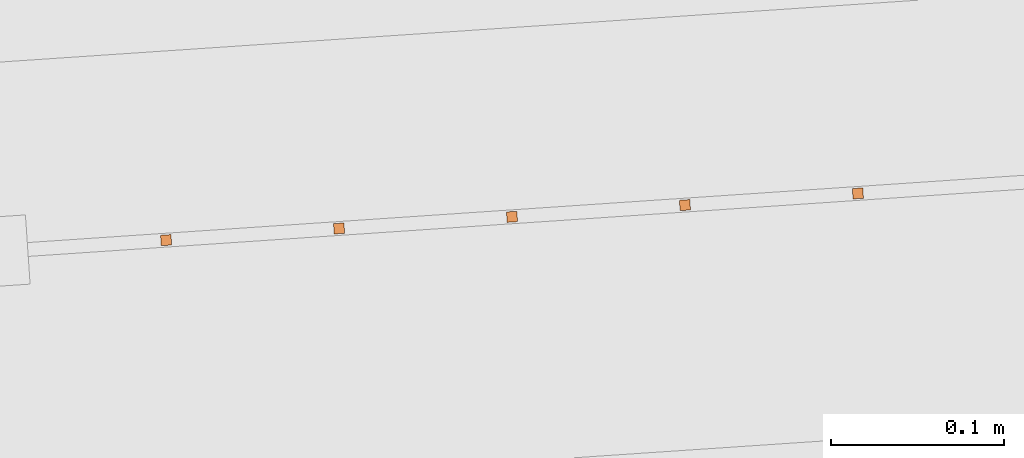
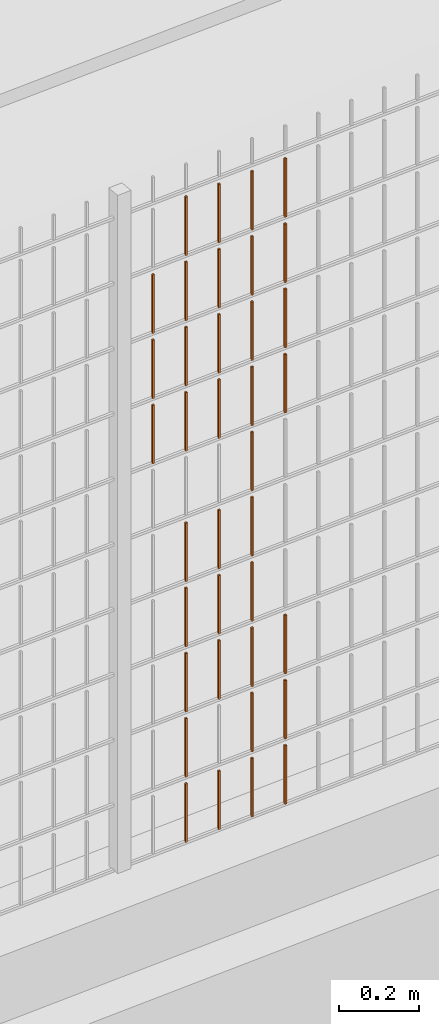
# One storey, part 269 of 1809: 37 proxies, 1 element without a shape of its own.
"""IFC2X3 building model written with IfcOpenShell, lengths in millimetres."""

from ifc_helpers import new_model, entity, si_unit, converted_unit, derived_unit, money_unit, direction, frame, origin_with_axes, place, context, subcontext, project, spatial, faceted_brep, source, transform, mapped, material, type_object, element, aggregate, save


model = new_model("IFC2X3")

# Units and contexts
model_context = context("Model", 3, precision=0.01, world=origin_with_axes(), true_north=direction((0.0, 1.0)))
body_context = subcontext(model_context, "Body", "Model", "MODEL_VIEW")
ifc_project = project(units=[si_unit("LENGTHUNIT", "METRE", prefix="MILLI"), si_unit("AREAUNIT", "SQUARE_METRE"), si_unit("VOLUMEUNIT", "CUBIC_METRE"), converted_unit("PLANEANGLEUNIT", "DEGREE", entity("IfcPlaneAngleMeasure", 0.0174532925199), si_unit("PLANEANGLEUNIT", "RADIAN"), dimensions=[0, 0, 0, 0, 0, 0, 0]), si_unit("SOLIDANGLEUNIT", "STERADIAN"), money_unit("EUR"), converted_unit("TIMEUNIT", "Year", entity("IfcTimeMeasure", 31556926.0), si_unit("TIMEUNIT", "SECOND"), dimensions=[0, 0, 1, 0, 0, 0, 0]), si_unit("MASSUNIT", "GRAM", prefix="KILO"), si_unit("THERMODYNAMICTEMPERATUREUNIT", "DEGREE_CELSIUS"), si_unit("LUMINOUSINTENSITYUNIT", "LUMEN"), si_unit("ENERGYUNIT", "JOULE", prefix="MEGA"), derived_unit("THERMALCONDUCTANCEUNIT", [(si_unit("POWERUNIT", "WATT"), 1), (si_unit("LENGTHUNIT", "METRE"), -1), (si_unit("THERMODYNAMICTEMPERATUREUNIT", "KELVIN"), -1)]), derived_unit("SPECIFICHEATCAPACITYUNIT", [(si_unit("ENERGYUNIT", "JOULE"), 1), (si_unit("MASSUNIT", "GRAM", prefix="KILO"), -1), (si_unit("THERMODYNAMICTEMPERATUREUNIT", "KELVIN"), -1)]), derived_unit("MASSDENSITYUNIT", [(si_unit("MASSUNIT", "GRAM", prefix="KILO"), 1), (si_unit("VOLUMEUNIT", "CUBIC_METRE"), -1)])], contexts=[model_context])

# Site, building, storey
site_placement = place(None, origin_with_axes())
site = spatial("IfcSite", under=ifc_project, at=site_placement, Name="Politse- ja Piirivalveameti ning Päästeameti ühishoone", CompositionType="ELEMENT")
building_placement = place(site_placement, origin_with_axes())
building = spatial("IfcBuilding", under=site, at=building_placement, Name="Politse- ja Piirivalveameti ning Päästeameti ühishoone", CompositionType="ELEMENT")
storey_placement = place(building_placement, origin_with_axes())
storey = spatial("IfcBuildingStorey", under=building, at=storey_placement, Name="Esimene korrus", CompositionType="ELEMENT", Elevation=0.0)

# Proxies
building_element_proxy_type_1 = type_object("IfcBuildingElementProxyType", Name="Railing Type", PredefinedType="NOTDEFINED")
proxy_1_placement = place(storey_placement, frame((89252.001212, -29183.4766571, 203.661247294), z_axis=(0.0, 0.0, 1.0), x_axis=(1.0, 0.0, 0.0)))
proxy_1 = element("IfcBuildingElementProxy", 1, at=proxy_1_placement, inside=storey, type_object=building_element_proxy_type_1, Name="PIIRDEAED")
ifc_material = material(Name="ET-03_Raud")
building_element_proxy_type_2 = type_object("IfcBuildingElementProxyType", Name="IfcBuildingElementProxy", PredefinedType="NOTDEFINED")
shared_shape_1 = source(origin_with_axes(), body_context, "Body", "Brep", [
    faceted_brep([(3.0, 3.0, -0.000752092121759), (-3.0, 3.0, -0.00075209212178), (-3.0, 3.0, 179.99926046), (3.0, 3.0, 179.99926046), (3.0, -3.0, 0.00075209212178), (-3.0, -3.0, 0.000752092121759), (-3.0, -3.0, 180.000764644), (3.0, -3.0, 180.000764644)], [[[0, 1, 2, 3]], [[0, 4, 5, 1]], [[1, 5, 6, 2]], [[3, 2, 6, 7]], [[4, 0, 3, 7]], [[5, 4, 7, 6]]]),
])
proxy_2_placement = place(proxy_1_placement, frame((-54203.1778868, -20958.9948724, 13.6148275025), z_axis=(0.0, 0.0, 1.0), x_axis=(1.0, 0.0, 0.0)))
proxy_2 = element("IfcBuildingElementProxy", 2, at=proxy_2_placement, type_object=building_element_proxy_type_2, material=ifc_material, Name="BALUSTER - 001", context=body_context, shape_type="MappedRepresentation", body=[
    mapped(shared_shape_1, transform((0.0, 0.0, 0.0), x_axis=(-0.0673926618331, 0.997726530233, 0.0), y_axis=(-0.997726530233, -0.0673926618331, 0.0), z_axis=(0.0, 0.0, 1.0))),
])
shared_shape_2 = source(origin_with_axes(), body_context, "Body", "Brep", [
    faceted_brep([(3.0, 3.0, -0.000752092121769), (-3.0, 3.0, -0.00075209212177), (-3.0, 3.0, 179.99926046), (3.0, 3.0, 179.99926046), (3.0, -3.0, 0.00075209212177), (-3.0, -3.0, 0.000752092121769), (-3.0, -3.0, 180.000764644), (3.0, -3.0, 180.000764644)], [[[0, 1, 2, 3]], [[0, 4, 5, 1]], [[1, 5, 6, 2]], [[3, 2, 6, 7]], [[4, 0, 3, 7]], [[5, 4, 7, 6]]]),
])
proxy_3_placement = place(proxy_1_placement, frame((-54302.9505399, -20965.7341386, 13.5897577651), z_axis=(0.0, 0.0, 1.0), x_axis=(1.0, 0.0, 0.0)))
proxy_3 = element("IfcBuildingElementProxy", 3, at=proxy_3_placement, type_object=building_element_proxy_type_2, material=ifc_material, Name="BALUSTER - 001", context=body_context, shape_type="MappedRepresentation", body=[
    mapped(shared_shape_2, transform((0.0, 0.0, 0.0), x_axis=(-0.0673926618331, 0.997726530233, 0.0), y_axis=(-0.997726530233, -0.0673926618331, 0.0), z_axis=(0.0, 0.0, 1.0))),
])
shared_shape_3 = source(origin_with_axes(), body_context, "Body", "Brep", [
    faceted_brep([(3.0, 3.0, -0.000752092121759), (-3.0, 3.0, -0.00075209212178), (-3.0, 3.0, 179.99926046), (3.0, 3.0, 179.99926046), (3.0, -3.0, 0.00075209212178), (-3.0, -3.0, 0.000752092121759), (-3.0, -3.0, 180.000764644), (3.0, -3.0, 180.000764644)], [[[0, 1, 2, 3]], [[0, 4, 5, 1]], [[1, 5, 6, 2]], [[3, 2, 6, 7]], [[4, 0, 3, 7]], [[5, 4, 7, 6]]]),
])
proxy_4_placement = place(proxy_1_placement, frame((-54402.7231929, -20972.4734048, 13.5646880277), z_axis=(0.0, 0.0, 1.0), x_axis=(1.0, 0.0, 0.0)))
proxy_4 = element("IfcBuildingElementProxy", 4, at=proxy_4_placement, type_object=building_element_proxy_type_2, material=ifc_material, Name="BALUSTER - 001", context=body_context, shape_type="MappedRepresentation", body=[
    mapped(shared_shape_3, transform((0.0, 0.0, 0.0), x_axis=(-0.0673926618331, 0.997726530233, 0.0), y_axis=(-0.997726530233, -0.0673926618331, 0.0), z_axis=(0.0, 0.0, 1.0))),
])
proxy_5_placement = place(proxy_1_placement, frame((-54502.4958459, -20979.212671, 13.5396182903), z_axis=(0.0, 0.0, 1.0), x_axis=(1.0, 0.0, 0.0)))
proxy_5 = element("IfcBuildingElementProxy", 5, at=proxy_5_placement, type_object=building_element_proxy_type_2, material=ifc_material, Name="BALUSTER - 001", context=body_context, shape_type="MappedRepresentation", body=[
    mapped(shared_shape_3, transform((0.0, 0.0, 0.0), x_axis=(-0.0673926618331, 0.997726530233, 0.0), y_axis=(-0.997726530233, -0.0673926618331, 0.0), z_axis=(0.0, 0.0, 1.0))),
])
proxy_6_placement = place(proxy_1_placement, frame((-54502.4958459, -20979.212671, 213.53961829), z_axis=(0.0, 0.0, 1.0), x_axis=(1.0, 0.0, 0.0)))
proxy_6 = element("IfcBuildingElementProxy", 6, at=proxy_6_placement, type_object=building_element_proxy_type_2, material=ifc_material, Name="BALUSTER - 001", context=body_context, shape_type="MappedRepresentation", body=[
    mapped(shared_shape_3, transform((0.0, 0.0, 0.0), x_axis=(-0.0673926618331, 0.997726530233, 0.0), y_axis=(-0.997726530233, -0.0673926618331, 0.0), z_axis=(0.0, 0.0, 1.0))),
])
shared_shape_4 = source(origin_with_axes(), body_context, "Body", "Brep", [
    faceted_brep([(3.0, 3.0, -0.000752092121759), (-3.0, 3.0, -0.00075209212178), (-3.0, 3.0, 179.99926046), (3.0, 3.0, 179.99926046), (3.0, -3.0, 0.00075209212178), (-3.0, -3.0, 0.000752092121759), (-3.0, -3.0, 180.000764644), (3.0, -3.0, 180.000764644)], [[[0, 1, 2, 3]], [[0, 4, 5, 1]], [[1, 5, 6, 2]], [[3, 2, 6, 7]], [[4, 0, 3, 7]], [[5, 4, 7, 6]]]),
])
proxy_7_placement = place(proxy_1_placement, frame((-54502.4958459, -20979.212671, 413.53961829), z_axis=(0.0, 0.0, 1.0), x_axis=(1.0, 0.0, 0.0)))
proxy_7 = element("IfcBuildingElementProxy", 7, at=proxy_7_placement, type_object=building_element_proxy_type_2, material=ifc_material, Name="BALUSTER - 001", context=body_context, shape_type="MappedRepresentation", body=[
    mapped(shared_shape_4, transform((0.0, 0.0, 0.0), x_axis=(-0.0673926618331, 0.997726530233, 0.0), y_axis=(-0.997726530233, -0.0673926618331, 0.0), z_axis=(0.0, 0.0, 1.0))),
])
proxy_8_placement = place(proxy_1_placement, frame((-54402.7231929, -20972.4734048, 613.564688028), z_axis=(0.0, 0.0, 1.0), x_axis=(1.0, 0.0, 0.0)))
proxy_8 = element("IfcBuildingElementProxy", 8, at=proxy_8_placement, type_object=building_element_proxy_type_2, material=ifc_material, Name="BALUSTER - 001", context=body_context, shape_type="MappedRepresentation", body=[
    mapped(shared_shape_4, transform((0.0, 0.0, 0.0), x_axis=(-0.0673926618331, 0.997726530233, 0.0), y_axis=(-0.997726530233, -0.0673926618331, 0.0), z_axis=(0.0, 0.0, 1.0))),
])
shared_shape_5 = source(origin_with_axes(), body_context, "Body", "Brep", [
    faceted_brep([(3.0, 3.0, -0.000752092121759), (-3.0, 3.0, -0.00075209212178), (-3.0, 3.0, 179.99926046), (3.0, 3.0, 179.99926046), (3.0, -3.0, 0.00075209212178), (-3.0, -3.0, 0.000752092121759), (-3.0, -3.0, 180.000764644), (3.0, -3.0, 180.000764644)], [[[0, 1, 2, 3]], [[0, 4, 5, 1]], [[1, 5, 6, 2]], [[3, 2, 6, 7]], [[4, 0, 3, 7]], [[5, 4, 7, 6]]]),
])
proxy_9_placement = place(proxy_1_placement, frame((-54203.1778868, -20958.9948724, 213.614827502), z_axis=(0.0, 0.0, 1.0), x_axis=(1.0, 0.0, 0.0)))
proxy_9 = element("IfcBuildingElementProxy", 9, at=proxy_9_placement, type_object=building_element_proxy_type_2, material=ifc_material, Name="BALUSTER - 001", context=body_context, shape_type="MappedRepresentation", body=[
    mapped(shared_shape_5, transform((0.0, 0.0, 0.0), x_axis=(-0.0673926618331, 0.997726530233, 0.0), y_axis=(-0.997726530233, -0.0673926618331, 0.0), z_axis=(0.0, 0.0, 1.0))),
])
proxy_10_placement = place(proxy_1_placement, frame((-54203.1778868, -20958.9948724, 413.614827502), z_axis=(0.0, 0.0, 1.0), x_axis=(1.0, 0.0, 0.0)))
proxy_10 = element("IfcBuildingElementProxy", 10, at=proxy_10_placement, type_object=building_element_proxy_type_2, material=ifc_material, Name="BALUSTER - 001", context=body_context, shape_type="MappedRepresentation", body=[
    mapped(shared_shape_5, transform((0.0, 0.0, 0.0), x_axis=(-0.0673926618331, 0.997726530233, 0.0), y_axis=(-0.997726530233, -0.0673926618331, 0.0), z_axis=(0.0, 0.0, 1.0))),
])
shared_shape_6 = source(origin_with_axes(), body_context, "Body", "Brep", [
    faceted_brep([(3.0, 3.0, -0.000752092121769), (-3.0, 3.0, -0.00075209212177), (-3.0, 3.0, 179.99926046), (3.0, 3.0, 179.99926046), (3.0, -3.0, 0.00075209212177), (-3.0, -3.0, 0.000752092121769), (-3.0, -3.0, 180.000764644), (3.0, -3.0, 180.000764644)], [[[0, 1, 2, 3]], [[0, 4, 5, 1]], [[1, 5, 6, 2]], [[3, 2, 6, 7]], [[4, 0, 3, 7]], [[5, 4, 7, 6]]]),
])
proxy_11_placement = place(proxy_1_placement, frame((-54302.9505399, -20965.7341386, 213.589757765), z_axis=(0.0, 0.0, 1.0), x_axis=(1.0, 0.0, 0.0)))
proxy_11 = element("IfcBuildingElementProxy", 11, at=proxy_11_placement, type_object=building_element_proxy_type_2, material=ifc_material, Name="BALUSTER - 001", context=body_context, shape_type="MappedRepresentation", body=[
    mapped(shared_shape_6, transform((0.0, 0.0, 0.0), x_axis=(-0.0673926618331, 0.997726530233, 0.0), y_axis=(-0.997726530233, -0.0673926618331, 0.0), z_axis=(0.0, 0.0, 1.0))),
])
shared_shape_7 = source(origin_with_axes(), body_context, "Body", "Brep", [
    faceted_brep([(3.0, 3.0, -0.000752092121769), (-3.0, 3.0, -0.00075209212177), (-3.0, 3.0, 179.99926046), (3.0, 3.0, 179.99926046), (3.0, -3.0, 0.00075209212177), (-3.0, -3.0, 0.000752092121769), (-3.0, -3.0, 180.000764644), (3.0, -3.0, 180.000764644)], [[[0, 1, 2, 3]], [[0, 4, 5, 1]], [[1, 5, 6, 2]], [[3, 2, 6, 7]], [[4, 0, 3, 7]], [[5, 4, 7, 6]]]),
])
proxy_12_placement = place(proxy_1_placement, frame((-54302.9505399, -20965.7341386, 413.589757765), z_axis=(0.0, 0.0, 1.0), x_axis=(1.0, 0.0, 0.0)))
proxy_12 = element("IfcBuildingElementProxy", 12, at=proxy_12_placement, type_object=building_element_proxy_type_2, material=ifc_material, Name="BALUSTER - 001", context=body_context, shape_type="MappedRepresentation", body=[
    mapped(shared_shape_7, transform((0.0, 0.0, 0.0), x_axis=(-0.0673926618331, 0.997726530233, 0.0), y_axis=(-0.997726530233, -0.0673926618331, 0.0), z_axis=(0.0, 0.0, 1.0))),
])
proxy_13_placement = place(proxy_1_placement, frame((-54302.9505399, -20965.7341386, 613.589757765), z_axis=(0.0, 0.0, 1.0), x_axis=(1.0, 0.0, 0.0)))
proxy_13 = element("IfcBuildingElementProxy", 13, at=proxy_13_placement, type_object=building_element_proxy_type_2, material=ifc_material, Name="BALUSTER - 001", context=body_context, shape_type="MappedRepresentation", body=[
    mapped(shared_shape_7, transform((0.0, 0.0, 0.0), x_axis=(-0.0673926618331, 0.997726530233, 0.0), y_axis=(-0.997726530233, -0.0673926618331, 0.0), z_axis=(0.0, 0.0, 1.0))),
])
shared_shape_8 = source(origin_with_axes(), body_context, "Body", "Brep", [
    faceted_brep([(3.0, 3.0, -0.000752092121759), (-3.0, 3.0, -0.00075209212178), (-3.0, 3.0, 179.99926046), (3.0, 3.0, 179.99926046), (3.0, -3.0, 0.00075209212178), (-3.0, -3.0, 0.000752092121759), (-3.0, -3.0, 180.000764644), (3.0, -3.0, 180.000764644)], [[[0, 1, 2, 3]], [[0, 4, 5, 1]], [[1, 5, 6, 2]], [[3, 2, 6, 7]], [[4, 0, 3, 7]], [[5, 4, 7, 6]]]),
])
proxy_14_placement = place(proxy_1_placement, frame((-54402.7231929, -20972.4734048, 413.564688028), z_axis=(0.0, 0.0, 1.0), x_axis=(1.0, 0.0, 0.0)))
proxy_14 = element("IfcBuildingElementProxy", 14, at=proxy_14_placement, type_object=building_element_proxy_type_2, material=ifc_material, Name="BALUSTER - 001", context=body_context, shape_type="MappedRepresentation", body=[
    mapped(shared_shape_8, transform((0.0, 0.0, 0.0), x_axis=(-0.0673926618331, 0.997726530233, 0.0), y_axis=(-0.997726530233, -0.0673926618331, 0.0), z_axis=(0.0, 0.0, 1.0))),
])
proxy_15_placement = place(proxy_1_placement, frame((-54502.4958459, -20979.212671, 613.53961829), z_axis=(0.0, 0.0, 1.0), x_axis=(1.0, 0.0, 0.0)))
proxy_15 = element("IfcBuildingElementProxy", 15, at=proxy_15_placement, type_object=building_element_proxy_type_2, material=ifc_material, Name="BALUSTER - 001", context=body_context, shape_type="MappedRepresentation", body=[
    mapped(shared_shape_8, transform((0.0, 0.0, 0.0), x_axis=(-0.0673926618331, 0.997726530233, 0.0), y_axis=(-0.997726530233, -0.0673926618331, 0.0), z_axis=(0.0, 0.0, 1.0))),
])
shared_shape_9 = source(origin_with_axes(), body_context, "Body", "Brep", [
    faceted_brep([(3.0, 3.0, -0.000752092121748), (-3.0, 3.0, -0.00075209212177), (-3.0, 3.0, 179.99926046), (3.0, 3.0, 179.99926046), (3.0, -3.0, 0.00075209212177), (-3.0, -3.0, 0.000752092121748), (-3.0, -3.0, 180.000764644), (3.0, -3.0, 180.000764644)], [[[0, 1, 2, 3]], [[0, 4, 5, 1]], [[1, 5, 6, 2]], [[3, 2, 6, 7]], [[4, 0, 3, 7]], [[5, 4, 7, 6]]]),
])
proxy_16_placement = place(proxy_1_placement, frame((-54502.4958459, -20979.212671, 1213.53961829), z_axis=(0.0, 0.0, 1.0), x_axis=(1.0, 0.0, 0.0)))
proxy_16 = element("IfcBuildingElementProxy", 16, at=proxy_16_placement, type_object=building_element_proxy_type_2, material=ifc_material, Name="BALUSTER - 001", context=body_context, shape_type="MappedRepresentation", body=[
    mapped(shared_shape_9, transform((0.0, 0.0, 0.0), x_axis=(-0.0673926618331, 0.997726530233, 0.0), y_axis=(-0.997726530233, -0.0673926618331, 0.0), z_axis=(0.0, 0.0, 1.0))),
])
proxy_17_placement = place(proxy_1_placement, frame((-54402.7231929, -20972.4734048, 1813.56468803), z_axis=(0.0, 0.0, 1.0), x_axis=(1.0, 0.0, 0.0)))
proxy_17 = element("IfcBuildingElementProxy", 17, at=proxy_17_placement, type_object=building_element_proxy_type_2, material=ifc_material, Name="BALUSTER - 001", context=body_context, shape_type="MappedRepresentation", body=[
    mapped(shared_shape_9, transform((0.0, 0.0, 0.0), x_axis=(-0.0673926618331, 0.997726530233, 0.0), y_axis=(-0.997726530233, -0.0673926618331, 0.0), z_axis=(0.0, 0.0, 1.0))),
])
shared_shape_10 = source(origin_with_axes(), body_context, "Body", "Brep", [
    faceted_brep([(3.0, 3.0, -0.000752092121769), (-3.0, 3.0, -0.00075209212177), (-3.0, 3.0, 179.99926046), (3.0, 3.0, 179.99926046), (3.0, -3.0, 0.00075209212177), (-3.0, -3.0, 0.000752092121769), (-3.0, -3.0, 180.000764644), (3.0, -3.0, 180.000764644)], [[[0, 1, 2, 3]], [[0, 4, 5, 1]], [[1, 5, 6, 2]], [[3, 2, 6, 7]], [[4, 0, 3, 7]], [[5, 4, 7, 6]]]),
])
proxy_18_placement = place(proxy_1_placement, frame((-54302.9505399, -20965.7341386, 813.589757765), z_axis=(0.0, 0.0, 1.0), x_axis=(1.0, 0.0, 0.0)))
proxy_18 = element("IfcBuildingElementProxy", 18, at=proxy_18_placement, type_object=building_element_proxy_type_2, material=ifc_material, Name="BALUSTER - 001", context=body_context, shape_type="MappedRepresentation", body=[
    mapped(shared_shape_10, transform((0.0, 0.0, 0.0), x_axis=(-0.0673926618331, 0.997726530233, 0.0), y_axis=(-0.997726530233, -0.0673926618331, 0.0), z_axis=(0.0, 0.0, 1.0))),
])
proxy_19_placement = place(proxy_1_placement, frame((-54302.9505399, -20965.7341386, 1213.58975777), z_axis=(0.0, 0.0, 1.0), x_axis=(1.0, 0.0, 0.0)))
proxy_19 = element("IfcBuildingElementProxy", 19, at=proxy_19_placement, type_object=building_element_proxy_type_2, material=ifc_material, Name="BALUSTER - 001", context=body_context, shape_type="MappedRepresentation", body=[
    mapped(shared_shape_10, transform((0.0, 0.0, 0.0), x_axis=(-0.0673926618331, 0.997726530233, 0.0), y_axis=(-0.997726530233, -0.0673926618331, 0.0), z_axis=(0.0, 0.0, 1.0))),
])
shared_shape_11 = source(origin_with_axes(), body_context, "Body", "Brep", [
    faceted_brep([(3.0, 3.0, -0.000752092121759), (-3.0, 3.0, -0.00075209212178), (-3.0, 3.0, 179.99926046), (3.0, 3.0, 179.99926046), (3.0, -3.0, 0.00075209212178), (-3.0, -3.0, 0.000752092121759), (-3.0, -3.0, 180.000764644), (3.0, -3.0, 180.000764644)], [[[0, 1, 2, 3]], [[0, 4, 5, 1]], [[1, 5, 6, 2]], [[3, 2, 6, 7]], [[4, 0, 3, 7]], [[5, 4, 7, 6]]]),
])
proxy_20_placement = place(proxy_1_placement, frame((-54402.7231929, -20972.4734048, 813.564688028), z_axis=(0.0, 0.0, 1.0), x_axis=(1.0, 0.0, 0.0)))
proxy_20 = element("IfcBuildingElementProxy", 20, at=proxy_20_placement, type_object=building_element_proxy_type_2, material=ifc_material, Name="BALUSTER - 001", context=body_context, shape_type="MappedRepresentation", body=[
    mapped(shared_shape_11, transform((0.0, 0.0, 0.0), x_axis=(-0.0673926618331, 0.997726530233, 0.0), y_axis=(-0.997726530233, -0.0673926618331, 0.0), z_axis=(0.0, 0.0, 1.0))),
])
shared_shape_12 = source(origin_with_axes(), body_context, "Body", "Brep", [
    faceted_brep([(3.0, 3.0, -0.000752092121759), (-3.0, 3.0, -0.00075209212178), (-3.0, 3.0, 179.99926046), (3.0, 3.0, 179.99926046), (3.0, -3.0, 0.00075209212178), (-3.0, -3.0, 0.000752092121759), (-3.0, -3.0, 180.000764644), (3.0, -3.0, 180.000764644)], [[[0, 1, 2, 3]], [[0, 4, 5, 1]], [[1, 5, 6, 2]], [[3, 2, 6, 7]], [[4, 0, 3, 7]], [[5, 4, 7, 6]]]),
])
proxy_21_placement = place(proxy_1_placement, frame((-54502.4958459, -20979.212671, 813.53961829), z_axis=(0.0, 0.0, 1.0), x_axis=(1.0, 0.0, 0.0)))
proxy_21 = element("IfcBuildingElementProxy", 21, at=proxy_21_placement, type_object=building_element_proxy_type_2, material=ifc_material, Name="BALUSTER - 001", context=body_context, shape_type="MappedRepresentation", body=[
    mapped(shared_shape_12, transform((0.0, 0.0, 0.0), x_axis=(-0.0673926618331, 0.997726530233, 0.0), y_axis=(-0.997726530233, -0.0673926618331, 0.0), z_axis=(0.0, 0.0, 1.0))),
])
shared_shape_13 = source(origin_with_axes(), body_context, "Body", "Brep", [
    faceted_brep([(3.0, 3.0, -0.000752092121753), (-3.0, 3.0, -0.000752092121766), (-3.00000000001, 3.00000000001, 179.99926046), (2.99999999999, 3.00000000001, 179.99926046), (3.0, -3.0, 0.000752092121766), (-3.0, -3.0, 0.000752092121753), (-3.00000000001, -2.99999999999, 180.000764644), (2.99999999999, -2.99999999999, 180.000764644)], [[[0, 1, 2, 3]], [[0, 4, 5, 1]], [[1, 5, 6, 2]], [[3, 2, 6, 7]], [[4, 0, 3, 7]], [[5, 4, 7, 6]]]),
])
proxy_22_placement = place(proxy_1_placement, frame((-54302.9505399, -20965.7341386, 1013.58975777), z_axis=(0.0, 0.0, 1.0), x_axis=(1.0, 0.0, 0.0)))
proxy_22 = element("IfcBuildingElementProxy", 22, at=proxy_22_placement, type_object=building_element_proxy_type_2, material=ifc_material, Name="BALUSTER - 001", context=body_context, shape_type="MappedRepresentation", body=[
    mapped(shared_shape_13, transform((0.0, 0.0, 0.0), x_axis=(-0.0673926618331, 0.997726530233, 0.0), y_axis=(-0.997726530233, -0.0673926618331, 0.0), z_axis=(0.0, 0.0, 1.0))),
])
shared_shape_14 = source(origin_with_axes(), body_context, "Body", "Brep", [
    faceted_brep([(3.0, 3.0, -0.000752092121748), (-3.0, 3.0, -0.00075209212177), (-3.0, 3.0, 179.99926046), (3.0, 3.0, 179.99926046), (3.0, -3.0, 0.00075209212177), (-3.0, -3.0, 0.000752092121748), (-3.0, -3.0, 180.000764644), (3.0, -3.0, 180.000764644)], [[[0, 1, 2, 3]], [[0, 4, 5, 1]], [[1, 5, 6, 2]], [[3, 2, 6, 7]], [[4, 0, 3, 7]], [[5, 4, 7, 6]]]),
])
proxy_23_placement = place(proxy_1_placement, frame((-54402.7231929, -20972.4734048, 1213.56468803), z_axis=(0.0, 0.0, 1.0), x_axis=(1.0, 0.0, 0.0)))
proxy_23 = element("IfcBuildingElementProxy", 23, at=proxy_23_placement, type_object=building_element_proxy_type_2, material=ifc_material, Name="BALUSTER - 001", context=body_context, shape_type="MappedRepresentation", body=[
    mapped(shared_shape_14, transform((0.0, 0.0, 0.0), x_axis=(-0.0673926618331, 0.997726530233, 0.0), y_axis=(-0.997726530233, -0.0673926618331, 0.0), z_axis=(0.0, 0.0, 1.0))),
])
proxy_24_placement = place(proxy_1_placement, frame((-54502.4958459, -20979.212671, 1813.53961829), z_axis=(0.0, 0.0, 1.0), x_axis=(1.0, 0.0, 0.0)))
proxy_24 = element("IfcBuildingElementProxy", 24, at=proxy_24_placement, type_object=building_element_proxy_type_2, material=ifc_material, Name="BALUSTER - 001", context=body_context, shape_type="MappedRepresentation", body=[
    mapped(shared_shape_14, transform((0.0, 0.0, 0.0), x_axis=(-0.0673926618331, 0.997726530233, 0.0), y_axis=(-0.997726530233, -0.0673926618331, 0.0), z_axis=(0.0, 0.0, 1.0))),
])
shared_shape_15 = source(origin_with_axes(), body_context, "Body", "Brep", [
    faceted_brep([(3.0, 3.0, -0.000752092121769), (-3.0, 3.0, -0.00075209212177), (-3.0, 3.0, 179.99926046), (3.0, 3.0, 179.99926046), (3.0, -3.0, 0.00075209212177), (-3.0, -3.0, 0.000752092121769), (-3.0, -3.0, 180.000764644), (3.0, -3.0, 180.000764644)], [[[0, 1, 2, 3]], [[0, 4, 5, 1]], [[1, 5, 6, 2]], [[3, 2, 6, 7]], [[4, 0, 3, 7]], [[5, 4, 7, 6]]]),
])
proxy_25_placement = place(proxy_1_placement, frame((-54203.1778868, -20958.9948724, 1213.6148275), z_axis=(0.0, 0.0, 1.0), x_axis=(1.0, 0.0, 0.0)))
proxy_25 = element("IfcBuildingElementProxy", 25, at=proxy_25_placement, type_object=building_element_proxy_type_2, material=ifc_material, Name="BALUSTER - 001", context=body_context, shape_type="MappedRepresentation", body=[
    mapped(shared_shape_15, transform((0.0, 0.0, 0.0), x_axis=(-0.0673926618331, 0.997726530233, 0.0), y_axis=(-0.997726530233, -0.0673926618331, 0.0), z_axis=(0.0, 0.0, 1.0))),
])
proxy_26_placement = place(proxy_1_placement, frame((-54302.9505399, -20965.7341386, 1813.58975777), z_axis=(0.0, 0.0, 1.0), x_axis=(1.0, 0.0, 0.0)))
proxy_26 = element("IfcBuildingElementProxy", 26, at=proxy_26_placement, type_object=building_element_proxy_type_2, material=ifc_material, Name="BALUSTER - 001", context=body_context, shape_type="MappedRepresentation", body=[
    mapped(shared_shape_15, transform((0.0, 0.0, 0.0), x_axis=(-0.0673926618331, 0.997726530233, 0.0), y_axis=(-0.997726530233, -0.0673926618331, 0.0), z_axis=(0.0, 0.0, 1.0))),
])
shared_shape_16 = source(origin_with_axes(), body_context, "Body", "Brep", [
    faceted_brep([(3.0, 3.0, -0.000752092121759), (-3.0, 3.0, -0.00075209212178), (-3.0, 3.0, 179.99926046), (3.0, 3.0, 179.99926046), (3.0, -3.0, 0.00075209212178), (-3.0, -3.0, 0.000752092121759), (-3.0, -3.0, 180.000764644), (3.0, -3.0, 180.000764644)], [[[0, 1, 2, 3]], [[0, 4, 5, 1]], [[1, 5, 6, 2]], [[3, 2, 6, 7]], [[4, 0, 3, 7]], [[5, 4, 7, 6]]]),
])
proxy_27_placement = place(proxy_1_placement, frame((-54602.2684989, -20985.9519372, 1213.51454855), z_axis=(0.0, 0.0, 1.0), x_axis=(1.0, 0.0, 0.0)))
proxy_27 = element("IfcBuildingElementProxy", 27, at=proxy_27_placement, type_object=building_element_proxy_type_2, material=ifc_material, Name="BALUSTER - 001", context=body_context, shape_type="MappedRepresentation", body=[
    mapped(shared_shape_16, transform((0.0, 0.0, 0.0), x_axis=(-0.0673926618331, 0.997726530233, 0.0), y_axis=(-0.997726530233, -0.0673926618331, 0.0), z_axis=(0.0, 0.0, 1.0))),
])
shared_shape_17 = source(origin_with_axes(), body_context, "Body", "Brep", [
    faceted_brep([(3.0, 3.0, -0.000752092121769), (-3.0, 3.0, -0.00075209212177), (-3.0, 3.0, 179.99926046), (3.0, 3.0, 179.99926046), (3.0, -3.0, 0.00075209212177), (-3.0, -3.0, 0.000752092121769), (-3.0, -3.0, 180.000764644), (3.0, -3.0, 180.000764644)], [[[0, 1, 2, 3]], [[0, 4, 5, 1]], [[1, 5, 6, 2]], [[3, 2, 6, 7]], [[4, 0, 3, 7]], [[5, 4, 7, 6]]]),
])
proxy_28_placement = place(proxy_1_placement, frame((-54302.9505399, -20965.7341386, 1413.58975777), z_axis=(0.0, 0.0, 1.0), x_axis=(1.0, 0.0, 0.0)))
proxy_28 = element("IfcBuildingElementProxy", 28, at=proxy_28_placement, type_object=building_element_proxy_type_2, material=ifc_material, Name="BALUSTER - 001", context=body_context, shape_type="MappedRepresentation", body=[
    mapped(shared_shape_17, transform((0.0, 0.0, 0.0), x_axis=(-0.0673926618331, 0.997726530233, 0.0), y_axis=(-0.997726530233, -0.0673926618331, 0.0), z_axis=(0.0, 0.0, 1.0))),
])
proxy_29_placement = place(proxy_1_placement, frame((-54302.9505399, -20965.7341386, 1613.58975777), z_axis=(0.0, 0.0, 1.0), x_axis=(1.0, 0.0, 0.0)))
proxy_29 = element("IfcBuildingElementProxy", 29, at=proxy_29_placement, type_object=building_element_proxy_type_2, material=ifc_material, Name="BALUSTER - 001", context=body_context, shape_type="MappedRepresentation", body=[
    mapped(shared_shape_17, transform((0.0, 0.0, 0.0), x_axis=(-0.0673926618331, 0.997726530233, 0.0), y_axis=(-0.997726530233, -0.0673926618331, 0.0), z_axis=(0.0, 0.0, 1.0))),
])
shared_shape_18 = source(origin_with_axes(), body_context, "Body", "Brep", [
    faceted_brep([(3.0, 3.0, -0.000752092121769), (-3.0, 3.0, -0.00075209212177), (-3.0, 3.0, 179.99926046), (3.0, 3.0, 179.99926046), (3.0, -3.0, 0.00075209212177), (-3.0, -3.0, 0.000752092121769), (-3.0, -3.0, 180.000764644), (3.0, -3.0, 180.000764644)], [[[0, 1, 2, 3]], [[0, 4, 5, 1]], [[1, 5, 6, 2]], [[3, 2, 6, 7]], [[4, 0, 3, 7]], [[5, 4, 7, 6]]]),
])
proxy_30_placement = place(proxy_1_placement, frame((-54203.1778868, -20958.9948724, 1413.6148275), z_axis=(0.0, 0.0, 1.0), x_axis=(1.0, 0.0, 0.0)))
proxy_30 = element("IfcBuildingElementProxy", 30, at=proxy_30_placement, type_object=building_element_proxy_type_2, material=ifc_material, Name="BALUSTER - 001", context=body_context, shape_type="MappedRepresentation", body=[
    mapped(shared_shape_18, transform((0.0, 0.0, 0.0), x_axis=(-0.0673926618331, 0.997726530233, 0.0), y_axis=(-0.997726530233, -0.0673926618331, 0.0), z_axis=(0.0, 0.0, 1.0))),
])
proxy_31_placement = place(proxy_1_placement, frame((-54203.1778868, -20958.9948724, 1613.6148275), z_axis=(0.0, 0.0, 1.0), x_axis=(1.0, 0.0, 0.0)))
proxy_31 = element("IfcBuildingElementProxy", 31, at=proxy_31_placement, type_object=building_element_proxy_type_2, material=ifc_material, Name="BALUSTER - 001", context=body_context, shape_type="MappedRepresentation", body=[
    mapped(shared_shape_18, transform((0.0, 0.0, 0.0), x_axis=(-0.0673926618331, 0.997726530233, 0.0), y_axis=(-0.997726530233, -0.0673926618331, 0.0), z_axis=(0.0, 0.0, 1.0))),
])
shared_shape_19 = source(origin_with_axes(), body_context, "Body", "Brep", [
    faceted_brep([(3.0, 3.0, -0.000752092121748), (-3.0, 3.0, -0.00075209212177), (-3.0, 3.0, 179.99926046), (3.0, 3.0, 179.99926046), (3.0, -3.0, 0.00075209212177), (-3.0, -3.0, 0.000752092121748), (-3.0, -3.0, 180.000764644), (3.0, -3.0, 180.000764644)], [[[0, 1, 2, 3]], [[0, 4, 5, 1]], [[1, 5, 6, 2]], [[3, 2, 6, 7]], [[4, 0, 3, 7]], [[5, 4, 7, 6]]]),
])
proxy_32_placement = place(proxy_1_placement, frame((-54402.7231929, -20972.4734048, 1413.56468803), z_axis=(0.0, 0.0, 1.0), x_axis=(1.0, 0.0, 0.0)))
proxy_32 = element("IfcBuildingElementProxy", 32, at=proxy_32_placement, type_object=building_element_proxy_type_2, material=ifc_material, Name="BALUSTER - 001", context=body_context, shape_type="MappedRepresentation", body=[
    mapped(shared_shape_19, transform((0.0, 0.0, 0.0), x_axis=(-0.0673926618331, 0.997726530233, 0.0), y_axis=(-0.997726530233, -0.0673926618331, 0.0), z_axis=(0.0, 0.0, 1.0))),
])
proxy_33_placement = place(proxy_1_placement, frame((-54402.7231929, -20972.4734048, 1613.56468803), z_axis=(0.0, 0.0, 1.0), x_axis=(1.0, 0.0, 0.0)))
proxy_33 = element("IfcBuildingElementProxy", 33, at=proxy_33_placement, type_object=building_element_proxy_type_2, material=ifc_material, Name="BALUSTER - 001", context=body_context, shape_type="MappedRepresentation", body=[
    mapped(shared_shape_19, transform((0.0, 0.0, 0.0), x_axis=(-0.0673926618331, 0.997726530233, 0.0), y_axis=(-0.997726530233, -0.0673926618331, 0.0), z_axis=(0.0, 0.0, 1.0))),
])
shared_shape_20 = source(origin_with_axes(), body_context, "Body", "Brep", [
    faceted_brep([(3.0, 3.0, -0.000752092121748), (-3.0, 3.0, -0.00075209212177), (-3.0, 3.0, 179.99926046), (3.0, 3.0, 179.99926046), (3.0, -3.0, 0.00075209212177), (-3.0, -3.0, 0.000752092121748), (-3.0, -3.0, 180.000764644), (3.0, -3.0, 180.000764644)], [[[0, 1, 2, 3]], [[0, 4, 5, 1]], [[1, 5, 6, 2]], [[3, 2, 6, 7]], [[4, 0, 3, 7]], [[5, 4, 7, 6]]]),
])
proxy_34_placement = place(proxy_1_placement, frame((-54502.4958459, -20979.212671, 1413.53961829), z_axis=(0.0, 0.0, 1.0), x_axis=(1.0, 0.0, 0.0)))
proxy_34 = element("IfcBuildingElementProxy", 34, at=proxy_34_placement, type_object=building_element_proxy_type_2, material=ifc_material, Name="BALUSTER - 001", context=body_context, shape_type="MappedRepresentation", body=[
    mapped(shared_shape_20, transform((0.0, 0.0, 0.0), x_axis=(-0.0673926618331, 0.997726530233, 0.0), y_axis=(-0.997726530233, -0.0673926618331, 0.0), z_axis=(0.0, 0.0, 1.0))),
])
proxy_35_placement = place(proxy_1_placement, frame((-54502.4958459, -20979.212671, 1613.53961829), z_axis=(0.0, 0.0, 1.0), x_axis=(1.0, 0.0, 0.0)))
proxy_35 = element("IfcBuildingElementProxy", 35, at=proxy_35_placement, type_object=building_element_proxy_type_2, material=ifc_material, Name="BALUSTER - 001", context=body_context, shape_type="MappedRepresentation", body=[
    mapped(shared_shape_20, transform((0.0, 0.0, 0.0), x_axis=(-0.0673926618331, 0.997726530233, 0.0), y_axis=(-0.997726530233, -0.0673926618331, 0.0), z_axis=(0.0, 0.0, 1.0))),
])
shared_shape_21 = source(origin_with_axes(), body_context, "Body", "Brep", [
    faceted_brep([(3.0, 3.0, -0.000752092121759), (-3.0, 3.0, -0.00075209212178), (-3.0, 3.0, 179.99926046), (3.0, 3.0, 179.99926046), (3.0, -3.0, 0.00075209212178), (-3.0, -3.0, 0.000752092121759), (-3.0, -3.0, 180.000764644), (3.0, -3.0, 180.000764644)], [[[0, 1, 2, 3]], [[0, 4, 5, 1]], [[1, 5, 6, 2]], [[3, 2, 6, 7]], [[4, 0, 3, 7]], [[5, 4, 7, 6]]]),
])
proxy_36_placement = place(proxy_1_placement, frame((-54602.2684989, -20985.9519372, 1413.51454855), z_axis=(0.0, 0.0, 1.0), x_axis=(1.0, 0.0, 0.0)))
proxy_36 = element("IfcBuildingElementProxy", 36, at=proxy_36_placement, type_object=building_element_proxy_type_2, material=ifc_material, Name="BALUSTER - 001", context=body_context, shape_type="MappedRepresentation", body=[
    mapped(shared_shape_21, transform((0.0, 0.0, 0.0), x_axis=(-0.0673926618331, 0.997726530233, 0.0), y_axis=(-0.997726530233, -0.0673926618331, 0.0), z_axis=(0.0, 0.0, 1.0))),
])
proxy_37_placement = place(proxy_1_placement, frame((-54602.2684989, -20985.9519372, 1613.51454855), z_axis=(0.0, 0.0, 1.0), x_axis=(1.0, 0.0, 0.0)))
proxy_37 = element("IfcBuildingElementProxy", 37, at=proxy_37_placement, type_object=building_element_proxy_type_2, material=ifc_material, Name="BALUSTER - 001", context=body_context, shape_type="MappedRepresentation", body=[
    mapped(shared_shape_21, transform((0.0, 0.0, 0.0), x_axis=(-0.0673926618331, 0.997726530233, 0.0), y_axis=(-0.997726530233, -0.0673926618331, 0.0), z_axis=(0.0, 0.0, 1.0))),
])
shared_shape_22 = source(origin_with_axes(), body_context, "Body", "Brep", [
    faceted_brep([(3.0, 3.0, -0.000752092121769), (-3.0, 3.0, -0.00075209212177), (-3.0, 3.0, 179.99926046), (3.0, 3.0, 179.99926046), (3.0, -3.0, 0.00075209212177), (-3.0, -3.0, 0.000752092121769), (-3.0, -3.0, 180.000764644), (3.0, -3.0, 180.000764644)], [[[0, 1, 2, 3]], [[0, 4, 5, 1]], [[1, 5, 6, 2]], [[3, 2, 6, 7]], [[4, 0, 3, 7]], [[5, 4, 7, 6]]]),
])
proxy_38_placement = place(proxy_1_placement, frame((-54203.1778868, -20958.9948724, 1813.6148275), z_axis=(0.0, 0.0, 1.0), x_axis=(1.0, 0.0, 0.0)))
proxy_38 = element("IfcBuildingElementProxy", 38, at=proxy_38_placement, type_object=building_element_proxy_type_2, material=ifc_material, Name="BALUSTER - 001", context=body_context, shape_type="MappedRepresentation", body=[
    mapped(shared_shape_22, transform((0.0, 0.0, 0.0), x_axis=(-0.0673926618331, 0.997726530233, 0.0), y_axis=(-0.997726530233, -0.0673926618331, 0.0), z_axis=(0.0, 0.0, 1.0))),
])
aggregate(proxy_1, [proxy_2, proxy_3, proxy_4, proxy_5, proxy_9, proxy_11, proxy_6, proxy_10, proxy_12, proxy_14, proxy_7, proxy_13, proxy_8, proxy_15, proxy_18, proxy_20, proxy_21, proxy_22, proxy_25, proxy_19, proxy_23, proxy_16, proxy_27, proxy_30, proxy_28, proxy_32, proxy_34, proxy_36, proxy_31, proxy_29, proxy_33, proxy_35, proxy_37, proxy_38, proxy_26, proxy_17, proxy_24])

save(model, "model.ifc")
